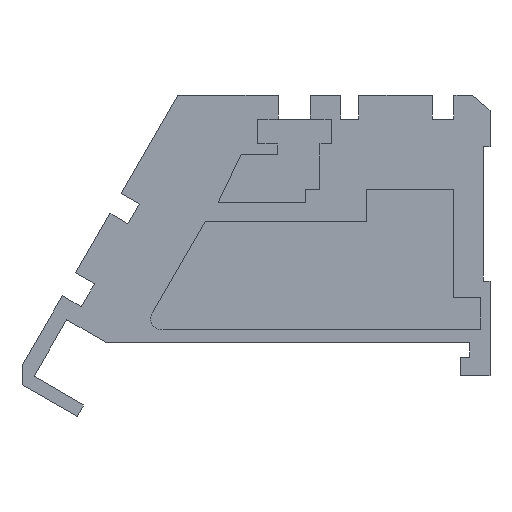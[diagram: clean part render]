
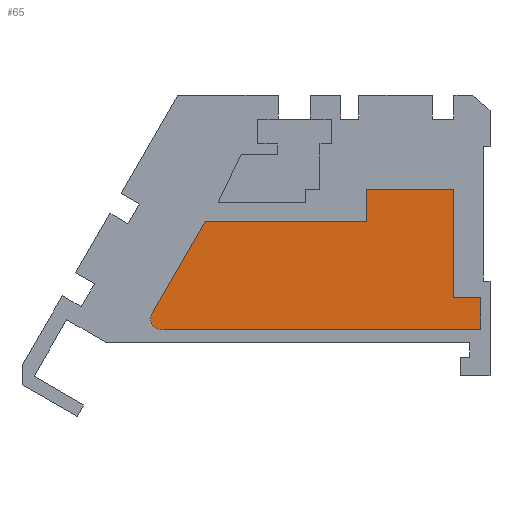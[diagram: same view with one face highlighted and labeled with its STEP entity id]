
A CAD part, front view. The second image highlights one B-rep face of the part: STEP entity #65.
In plain terms, the highlighted planar face has unit normal (0, -1, 0).
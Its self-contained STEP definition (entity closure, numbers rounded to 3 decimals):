
#65=ADVANCED_FACE('',(#154),#1504,.T.);
#154=FACE_OUTER_BOUND('',#245,.T.);
#245=EDGE_LOOP('',(#618,#619,#620,#621,#622,#623,#624,#625,#626));
#618=ORIENTED_EDGE('',*,*,#966,.T.);
#619=ORIENTED_EDGE('',*,*,#948,.T.);
#620=ORIENTED_EDGE('',*,*,#951,.T.);
#621=ORIENTED_EDGE('',*,*,#954,.T.);
#622=ORIENTED_EDGE('',*,*,#957,.T.);
#623=ORIENTED_EDGE('',*,*,#959,.T.);
#624=ORIENTED_EDGE('',*,*,#961,.T.);
#625=ORIENTED_EDGE('',*,*,#963,.T.);
#626=ORIENTED_EDGE('',*,*,#965,.T.);
#948=EDGE_CURVE('',#1447,#1446,#1201,.T.);
#951=EDGE_CURVE('',#1446,#1448,#1204,.T.);
#954=EDGE_CURVE('',#1448,#1449,#1207,.T.);
#957=EDGE_CURVE('',#1449,#1450,#1041,.T.);
#959=EDGE_CURVE('',#1450,#1451,#1210,.T.);
#961=EDGE_CURVE('',#1451,#1452,#1212,.T.);
#963=EDGE_CURVE('',#1452,#1453,#1214,.T.);
#965=EDGE_CURVE('',#1453,#1454,#1216,.T.);
#966=EDGE_CURVE('',#1454,#1447,#1217,.T.);
#1041=(
BOUNDED_CURVE()
B_SPLINE_CURVE(2,(#2420,#2421,#2422,#2423,#2424),.UNSPECIFIED.,.F.,.F.)
B_SPLINE_CURVE_WITH_KNOTS((3,2,3),(-2.595,-1.298,
0.),.UNSPECIFIED.)
CURVE()
GEOMETRIC_REPRESENTATION_ITEM()
RATIONAL_B_SPLINE_CURVE((1.,0.821,1.,0.821,1.))
REPRESENTATION_ITEM('')
);
#1201=B_SPLINE_CURVE_WITH_KNOTS('',1,(#2399,#2400),.UNSPECIFIED.,.F.,.F.,
(2,2),(0.,3.254),.UNSPECIFIED.);
#1204=B_SPLINE_CURVE_WITH_KNOTS('',1,(#2405,#2406),.UNSPECIFIED.,.F.,.F.,
(2,2),(0.,16.252),.UNSPECIFIED.);
#1207=B_SPLINE_CURVE_WITH_KNOTS('',1,(#2411,#2412),.UNSPECIFIED.,.F.,.F.,
(2,2),(0.,10.654),.UNSPECIFIED.);
#1210=B_SPLINE_CURVE_WITH_KNOTS('',1,(#2427,#2428),.UNSPECIFIED.,.F.,.F.,
(2,2),(0.,32.021),.UNSPECIFIED.);
#1212=B_SPLINE_CURVE_WITH_KNOTS('',1,(#2431,#2432),.UNSPECIFIED.,.F.,.F.,
(2,2),(0.,3.208),.UNSPECIFIED.);
#1214=B_SPLINE_CURVE_WITH_KNOTS('',1,(#2435,#2436),.UNSPECIFIED.,.F.,.F.,
(2,2),(0.,2.742),.UNSPECIFIED.);
#1216=B_SPLINE_CURVE_WITH_KNOTS('',1,(#2439,#2440),.UNSPECIFIED.,.F.,.F.,
(2,2),(0.,10.942),.UNSPECIFIED.);
#1217=B_SPLINE_CURVE_WITH_KNOTS('',1,(#2441,#2442),.UNSPECIFIED.,.F.,.F.,
(2,2),(0.,8.806),.UNSPECIFIED.);
#1446=VERTEX_POINT('',#2062);
#1447=VERTEX_POINT('',#2063);
#1448=VERTEX_POINT('',#2064);
#1449=VERTEX_POINT('',#2065);
#1450=VERTEX_POINT('',#2066);
#1451=VERTEX_POINT('',#2067);
#1452=VERTEX_POINT('',#2068);
#1453=VERTEX_POINT('',#2069);
#1454=VERTEX_POINT('',#2070);
#1504=PLANE('',#1681);
#1681=AXIS2_PLACEMENT_3D('',#1865,#1773,$);
#1773=DIRECTION('',(0.,-1.,0.));
#1865=CARTESIAN_POINT('',(21.285,12.174,9.955));
#2062=CARTESIAN_POINT('',(43.311,12.174,21.029));
#2063=CARTESIAN_POINT('',(43.311,12.174,24.283));
#2064=CARTESIAN_POINT('',(27.058,12.174,21.029));
#2065=CARTESIAN_POINT('',(21.731,12.174,11.803));
#2066=CARTESIAN_POINT('',(22.838,12.174,10.133));
#2067=CARTESIAN_POINT('',(54.859,12.174,10.133));
#2068=CARTESIAN_POINT('',(54.859,12.174,13.341));
#2069=CARTESIAN_POINT('',(52.117,12.174,13.341));
#2070=CARTESIAN_POINT('',(52.117,12.174,24.283));
#2399=CARTESIAN_POINT('',(43.311,12.174,24.283));
#2400=CARTESIAN_POINT('',(43.311,12.174,21.029));
#2405=CARTESIAN_POINT('',(43.311,12.174,21.029));
#2406=CARTESIAN_POINT('',(27.058,12.174,21.029));
#2411=CARTESIAN_POINT('',(27.058,12.174,21.029));
#2412=CARTESIAN_POINT('',(21.731,12.174,11.803));
#2420=CARTESIAN_POINT('',(21.731,12.174,11.803));
#2421=CARTESIAN_POINT('',(21.295,12.174,11.202));
#2422=CARTESIAN_POINT('',(21.705,12.174,10.583));
#2423=CARTESIAN_POINT('',(22.115,12.174,9.965));
#2424=CARTESIAN_POINT('',(22.838,12.174,10.133));
#2427=CARTESIAN_POINT('',(22.838,12.174,10.133));
#2428=CARTESIAN_POINT('',(54.859,12.174,10.133));
#2431=CARTESIAN_POINT('',(54.859,12.174,10.133));
#2432=CARTESIAN_POINT('',(54.859,12.174,13.341));
#2435=CARTESIAN_POINT('',(54.859,12.174,13.341));
#2436=CARTESIAN_POINT('',(52.117,12.174,13.341));
#2439=CARTESIAN_POINT('',(52.117,12.174,13.341));
#2440=CARTESIAN_POINT('',(52.117,12.174,24.283));
#2441=CARTESIAN_POINT('',(52.117,12.174,24.283));
#2442=CARTESIAN_POINT('',(43.311,12.174,24.283));
